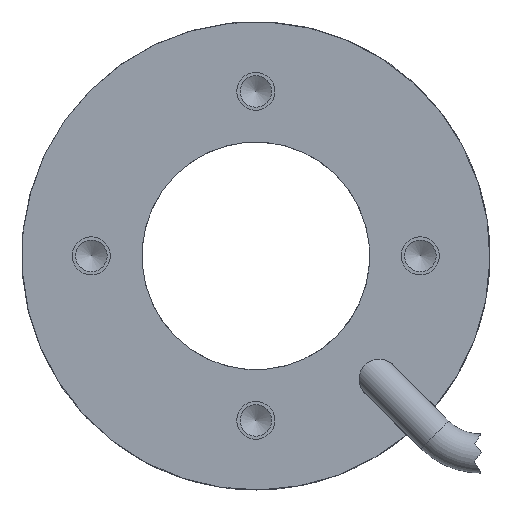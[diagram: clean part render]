
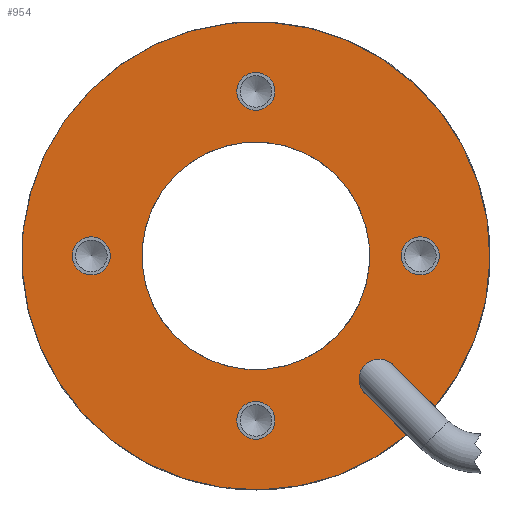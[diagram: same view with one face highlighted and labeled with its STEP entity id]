
A CAD part, front view. The second image highlights one B-rep face of the part: STEP entity #954.
In plain terms, the highlighted planar face has unit normal (0, -1, 0).
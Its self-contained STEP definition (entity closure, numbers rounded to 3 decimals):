
#85=FACE_BOUND('',#265,.T.);
#86=FACE_BOUND('',#266,.T.);
#87=FACE_BOUND('',#267,.T.);
#88=FACE_BOUND('',#268,.T.);
#89=FACE_BOUND('',#269,.T.);
#107=LINE('',#1522,#145);
#108=LINE('',#1526,#146);
#145=VECTOR('',#1202,1000.);
#146=VECTOR('',#1205,1000.);
#209=FACE_OUTER_BOUND('',#264,.T.);
#264=EDGE_LOOP('',(#675,#676,#677,#678,#679));
#265=EDGE_LOOP('',(#680,#681));
#266=EDGE_LOOP('',(#682,#683));
#267=EDGE_LOOP('',(#684,#685));
#268=EDGE_LOOP('',(#686,#687));
#269=EDGE_LOOP('',(#688));
#344=CIRCLE('',#1041,1.6);
#345=CIRCLE('',#1042,18.5);
#346=CIRCLE('',#1043,18.5);
#347=CIRCLE('',#1044,1.5);
#348=CIRCLE('',#1045,1.5);
#349=CIRCLE('',#1046,1.5);
#350=CIRCLE('',#1047,1.5);
#351=CIRCLE('',#1048,1.5);
#352=CIRCLE('',#1049,1.5);
#353=CIRCLE('',#1050,1.5);
#354=CIRCLE('',#1051,1.5);
#355=CIRCLE('',#1052,9.);
#430=VERTEX_POINT('',#1520);
#431=VERTEX_POINT('',#1521);
#432=VERTEX_POINT('',#1523);
#433=VERTEX_POINT('',#1525);
#434=VERTEX_POINT('',#1527);
#435=VERTEX_POINT('',#1530);
#436=VERTEX_POINT('',#1531);
#437=VERTEX_POINT('',#1534);
#438=VERTEX_POINT('',#1535);
#439=VERTEX_POINT('',#1538);
#440=VERTEX_POINT('',#1539);
#441=VERTEX_POINT('',#1542);
#442=VERTEX_POINT('',#1543);
#443=VERTEX_POINT('',#1546);
#535=EDGE_CURVE('',#430,#431,#107,.T.);
#536=EDGE_CURVE('',#430,#432,#344,.T.);
#537=EDGE_CURVE('',#432,#433,#108,.T.);
#538=EDGE_CURVE('',#433,#434,#345,.T.);
#539=EDGE_CURVE('',#434,#431,#346,.T.);
#540=EDGE_CURVE('',#435,#436,#347,.T.);
#541=EDGE_CURVE('',#436,#435,#348,.T.);
#542=EDGE_CURVE('',#437,#438,#349,.T.);
#543=EDGE_CURVE('',#438,#437,#350,.T.);
#544=EDGE_CURVE('',#439,#440,#351,.T.);
#545=EDGE_CURVE('',#440,#439,#352,.T.);
#546=EDGE_CURVE('',#441,#442,#353,.T.);
#547=EDGE_CURVE('',#442,#441,#354,.T.);
#548=EDGE_CURVE('',#443,#443,#355,.T.);
#675=ORIENTED_EDGE('',*,*,#535,.F.);
#676=ORIENTED_EDGE('',*,*,#536,.T.);
#677=ORIENTED_EDGE('',*,*,#537,.T.);
#678=ORIENTED_EDGE('',*,*,#538,.T.);
#679=ORIENTED_EDGE('',*,*,#539,.T.);
#680=ORIENTED_EDGE('',*,*,#540,.F.);
#681=ORIENTED_EDGE('',*,*,#541,.F.);
#682=ORIENTED_EDGE('',*,*,#542,.F.);
#683=ORIENTED_EDGE('',*,*,#543,.F.);
#684=ORIENTED_EDGE('',*,*,#544,.F.);
#685=ORIENTED_EDGE('',*,*,#545,.F.);
#686=ORIENTED_EDGE('',*,*,#546,.F.);
#687=ORIENTED_EDGE('',*,*,#547,.F.);
#688=ORIENTED_EDGE('',*,*,#548,.F.);
#927=PLANE('',#1040);
#954=ADVANCED_FACE('',(#209,#85,#86,#87,#88,#89),#927,.T.);
#1040=AXIS2_PLACEMENT_3D('',#1519,#1200,#1201);
#1041=AXIS2_PLACEMENT_3D('',#1524,#1203,#1204);
#1042=AXIS2_PLACEMENT_3D('',#1528,#1206,#1207);
#1043=AXIS2_PLACEMENT_3D('',#1529,#1208,#1209);
#1044=AXIS2_PLACEMENT_3D('',#1532,#1210,#1211);
#1045=AXIS2_PLACEMENT_3D('',#1533,#1212,#1213);
#1046=AXIS2_PLACEMENT_3D('',#1536,#1214,#1215);
#1047=AXIS2_PLACEMENT_3D('',#1537,#1216,#1217);
#1048=AXIS2_PLACEMENT_3D('',#1540,#1218,#1219);
#1049=AXIS2_PLACEMENT_3D('',#1541,#1220,#1221);
#1050=AXIS2_PLACEMENT_3D('',#1544,#1222,#1223);
#1051=AXIS2_PLACEMENT_3D('',#1545,#1224,#1225);
#1052=AXIS2_PLACEMENT_3D('',#1547,#1226,#1227);
#1200=DIRECTION('center_axis',(0.,-1.,0.));
#1201=DIRECTION('ref_axis',(0.707,0.,-0.707));
#1202=DIRECTION('',(0.707,0.,-0.707));
#1203=DIRECTION('center_axis',(0.,1.,0.));
#1204=DIRECTION('ref_axis',(-0.707,0.,0.707));
#1205=DIRECTION('',(0.707,0.,-0.707));
#1206=DIRECTION('center_axis',(0.,-1.,0.));
#1207=DIRECTION('ref_axis',(0.707,0.,-0.707));
#1208=DIRECTION('center_axis',(0.,-1.,0.));
#1209=DIRECTION('ref_axis',(0.707,0.,-0.707));
#1210=DIRECTION('center_axis',(0.,-1.,0.));
#1211=DIRECTION('ref_axis',(0.707,0.,-0.707));
#1212=DIRECTION('center_axis',(0.,-1.,0.));
#1213=DIRECTION('ref_axis',(0.707,0.,-0.707));
#1214=DIRECTION('center_axis',(0.,-1.,0.));
#1215=DIRECTION('ref_axis',(0.707,0.,-0.707));
#1216=DIRECTION('center_axis',(0.,-1.,0.));
#1217=DIRECTION('ref_axis',(0.707,0.,-0.707));
#1218=DIRECTION('center_axis',(0.,-1.,0.));
#1219=DIRECTION('ref_axis',(0.707,0.,-0.707));
#1220=DIRECTION('center_axis',(0.,-1.,0.));
#1221=DIRECTION('ref_axis',(0.707,0.,-0.707));
#1222=DIRECTION('center_axis',(0.,-1.,0.));
#1223=DIRECTION('ref_axis',(0.707,0.,-0.707));
#1224=DIRECTION('center_axis',(0.,-1.,0.));
#1225=DIRECTION('ref_axis',(0.707,0.,-0.707));
#1226=DIRECTION('center_axis',(0.,-1.,0.));
#1227=DIRECTION('ref_axis',(0.707,0.,-0.707));
#1519=CARTESIAN_POINT('Origin',(6.364,0.,
6.364));
#1520=CARTESIAN_POINT('',(8.627,0.,-10.889));
#1521=CARTESIAN_POINT('',(11.901,0.,-14.164));
#1522=CARTESIAN_POINT('',(-14.214,0.,11.951));
#1523=CARTESIAN_POINT('',(10.889,0.,-8.627));
#1524=CARTESIAN_POINT('Origin',(9.758,0.,-9.758));
#1525=CARTESIAN_POINT('',(14.164,0.,-11.901));
#1526=CARTESIAN_POINT('',(-11.951,0.,14.214));
#1527=CARTESIAN_POINT('',(-13.081,0.,13.081));
#1528=CARTESIAN_POINT('Origin',(0.,0.,
0.));
#1529=CARTESIAN_POINT('Origin',(0.,0.,
0.));
#1530=CARTESIAN_POINT('',(14.061,0.,-1.061));
#1531=CARTESIAN_POINT('',(11.939,0.,1.061));
#1532=CARTESIAN_POINT('Origin',(13.,0.,0.));
#1533=CARTESIAN_POINT('Origin',(13.,0.,0.));
#1534=CARTESIAN_POINT('',(1.061,0.,-14.061));
#1535=CARTESIAN_POINT('',(-1.061,0.,-11.939));
#1536=CARTESIAN_POINT('Origin',(0.,0.,
-13.));
#1537=CARTESIAN_POINT('Origin',(0.,0.,
-13.));
#1538=CARTESIAN_POINT('',(-11.939,0.,-1.061));
#1539=CARTESIAN_POINT('',(-14.061,0.,1.061));
#1540=CARTESIAN_POINT('Origin',(-13.,0.,0.));
#1541=CARTESIAN_POINT('Origin',(-13.,0.,0.));
#1542=CARTESIAN_POINT('',(1.061,0.,11.939));
#1543=CARTESIAN_POINT('',(-1.061,0.,14.061));
#1544=CARTESIAN_POINT('Origin',(0.,0.,
13.));
#1545=CARTESIAN_POINT('Origin',(0.,0.,
13.));
#1546=CARTESIAN_POINT('',(-6.364,0.,6.364));
#1547=CARTESIAN_POINT('Origin',(0.,0.,
0.));
